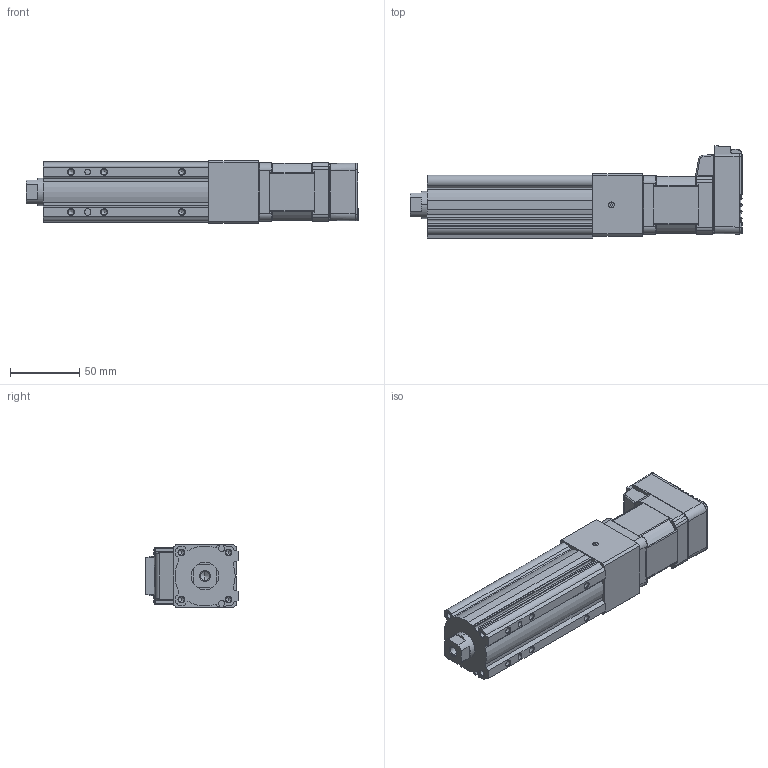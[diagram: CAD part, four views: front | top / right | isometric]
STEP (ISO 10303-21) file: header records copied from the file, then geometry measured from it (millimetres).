
FILE_DESCRIPTION (( 'STEP AP214' ), '1' );
FILE_NAME ('LEY3(+)-25DNM1□-30-17L.STEP', '2023-04-06T06:41:25', ( '' ), ( '' ), 'SwSTEP 2.0', 'SolidWorks 2019', '' );
FILE_SCHEMA (( 'AUTOMOTIVE_DESIGN' ));
Length unit declared in the file: millimetre
Products named in the file (5): LEY3(+)-25DNM1□-30-17L; LEY3(+)-25NM1?_BODY_30; LEY3(+)-25NM1?_ROD_30; CM3(+)-17L50A; LEY3(+)-25DNM1_MOTOR Flange
Assembly tree (4 placements, depth 2):
  LEY3(+)-25DNM1□-30-17L
    LEY3(+)-25NM1?_BODY_30
    LEY3(+)-25NM1?_ROD_30
    LEY3(+)-25DNM1_MOTOR Flange
    CM3(+)-17L50A
Bounding box: 239.8 x 66.75 x 45 mm (x, y, z)
Volume: 405218.6 mm3; surface area: 76332.5 mm2
Topology: 4 solids, 4 shells, 878 faces, 2218 edges, 1385 vertices
Faces by surface type: plane 460, cylinder 245, cone 94, bspline 29, torus 29, sphere 21
Full cylindrical faces by diameter (mm): 2.5 x4, 3.5 x4, 4 x1, 4.2 x6, 5 x1, 8 x1, 11 x1, 22 x1, 33 x1
Entity records: 36750 total; most frequent: CARTESIAN_POINT 6496, ORIENTED_EDGE 4284, DIRECTION 4139, EDGE_CURVE 2142, AXIS2_PLACEMENT_3D 1383, VERTEX_POINT 1375, LINE 1373, VECTOR 1373
